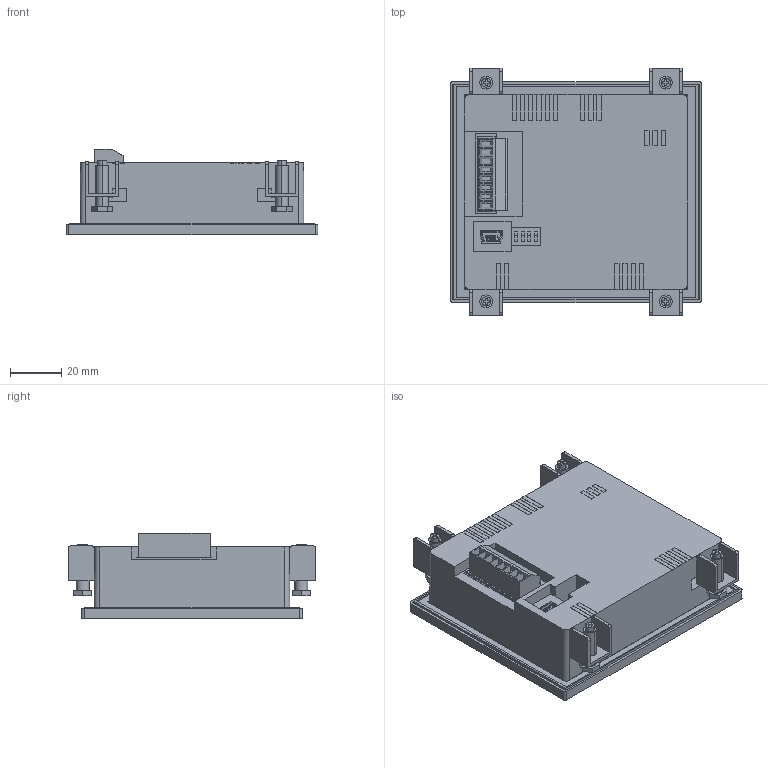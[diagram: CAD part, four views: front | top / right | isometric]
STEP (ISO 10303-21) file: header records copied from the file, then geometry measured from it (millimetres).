
FILE_DESCRIPTION (( 'STEP AP203' ), '1' );
FILE_NAME ('aig03mq03de.STEP', '2013-04-08T07:33:38', ( 'sunx' ), ( 'sunx' ), 'SwSTEP 2.0', 'SolidWorks 2010', '' );
FILE_SCHEMA (( 'CONFIG_CONTROL_DESIGN' ));
Length unit declared in the file: millimetre
Products named in the file (6): aig03mq03de_aig12830bracket; aig03mq03de; aig03mg03de; aig03mg03de_aig03810e; aig03mq03de_aigt084; aig03mq03de_aig12830screw
Assembly tree (11 placements, depth 2):
  aig03mq03de
    aig03mg03de
    aig03mq03de_aig12830bracket  x4
    aig03mq03de_aig12830screw  x4
    aig03mq03de_aigt084
    aig03mg03de_aig03810e
Bounding box: 98 x 96.2 x 33.4 mm (x, y, z)
Volume: 191054 mm3; surface area: 41864.6 mm2
Topology: 11 solids, 11 shells, 618 faces, 1556 edges, 1024 vertices
Faces by surface type: plane 554, cylinder 64
Entity records: 14584 total; most frequent: CARTESIAN_POINT 2483, ORIENTED_EDGE 2356, DIRECTION 2192, EDGE_CURVE 1178, LINE 1102, VECTOR 1102, VERTEX_POINT 772, AXIS2_PLACEMENT_3D 545
